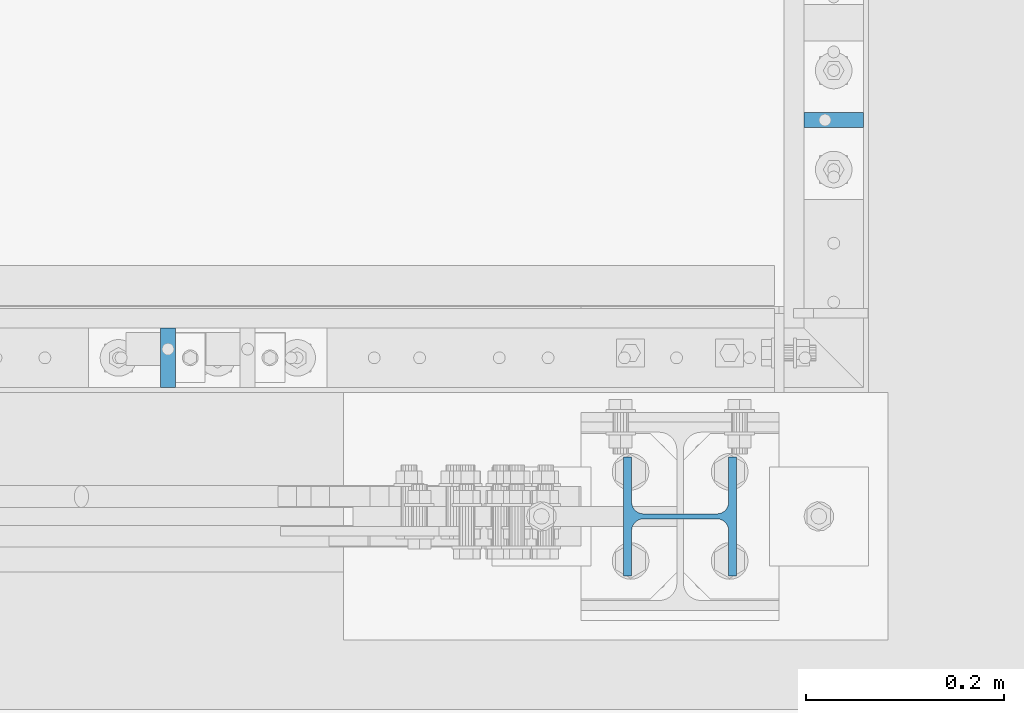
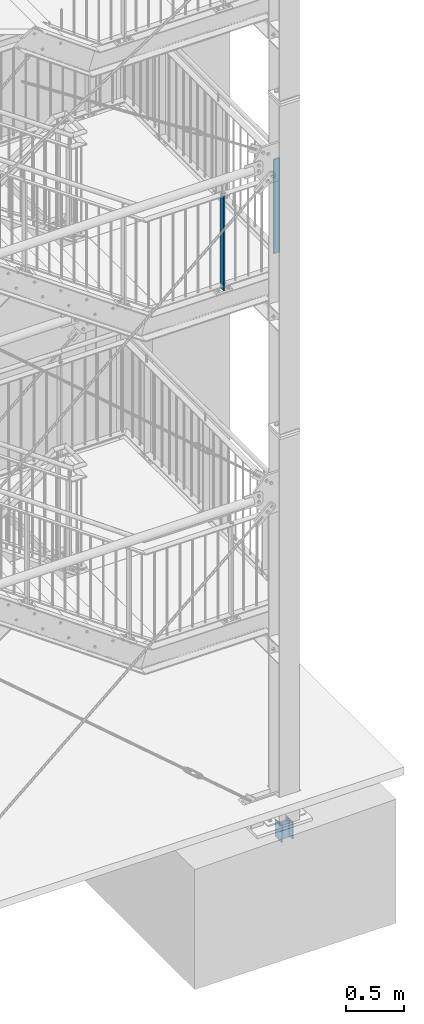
# One storey, part 89 of 831: 3 columns, 2 openings.
"""IFC2X3 building model written with IfcOpenShell, lengths in millimetres."""

from ifc_helpers import new_model, entity, si_unit, converted_unit, frame, origin, origin_with_axes, origin_2d, origin_2d_with_axis, place, context, project, spatial, rectangle, circle, i_section, extrude, clip, halfspace, material, element, save


model = new_model("IFC2X3")

# Units and contexts
model_context = context("Model", 3, precision=1e-09, world=origin_with_axes())
ifc_project = project(units=[si_unit("LENGTHUNIT", "METRE", prefix="MILLI"), si_unit("AREAUNIT", "SQUARE_METRE"), si_unit("VOLUMEUNIT", "CUBIC_METRE"), converted_unit("PLANEANGLEUNIT", "DEGREE", entity("IfcPlaneAngleMeasure", 0.01745329), si_unit("PLANEANGLEUNIT", "RADIAN"), dimensions=[0, 0, 0, 0, 0, 0, 0])], contexts=[model_context])

# Site, building, storey
site_placement = place(None, origin_with_axes())
site = spatial("IfcSite", under=ifc_project, at=site_placement, Name="Site", CompositionType="ELEMENT")
building_placement = place(site_placement, origin_with_axes())
building = spatial("IfcBuilding", under=site, at=building_placement, Name="Struktur 1", CompositionType="ELEMENT")
storey_placement = place(building_placement, origin_with_axes())
storey = spatial("IfcBuildingStorey", under=building, at=storey_placement, Name="Default Storey", CompositionType="ELEMENT", Elevation=0.0)

# Columns
ifc_material = material(Name="S235JR")
column_1_placement = place(None, frame((9021.713402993, 4766.735971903, 6714.618028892), z_axis=(0.0, 0.0, 1.0), x_axis=(0.0, -1.0, 0.0)))
element("IfcColumn", 1, at=column_1_placement, inside=storey, material=ifc_material, Name="Railing_Post_Landing#7", ObjectType="Railing_Post_Landing#7", context=model_context, shape_type="Clipping", body=[
    clip(clip(extrude(rectangle(XDim=15.0, YDim=60.0, at=origin_2d()), origin(), (0.0, 0.0, -1.0), 1070.646584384), halfspace(frame((4766.735971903, -9021.713402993, -1019.722292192), z_axis=(0.0, 0.0, 1.0), x_axis=(0.0, 1.0, 0.0)), True)), halfspace(frame((4766.735971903, -9021.713402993, -30.924292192), z_axis=(0.0, 0.0, -1.0), x_axis=(0.0, -1.0, 0.0)), True)),
])
column_2_placement = place(None, frame((8349.792260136, 4526.736971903, 6714.618028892), z_axis=(0.0, 0.0, 1.0), x_axis=(-1.0, 0.0, 0.0)))
element("IfcColumn", 2, at=column_2_placement, inside=storey, material=ifc_material, Name="Railing_Post_Landing#8", ObjectType="Railing_Post_Landing#8", context=model_context, shape_type="Clipping", body=[
    clip(clip(extrude(rectangle(XDim=15.0, YDim=60.0, at=origin_2d()), origin(), (0.0, 0.0, -1.0), 1070.646584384), halfspace(frame((8349.792260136, 4526.736971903, -1019.722292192), z_axis=(0.0, 0.0, 1.0), x_axis=(-1.0, 0.0, 0.0)), True)), halfspace(frame((8349.792260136, 4526.736971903, -30.924292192), z_axis=(0.0, 0.0, -1.0), x_axis=(1.0, 0.0, 0.0)), True)),
])

# Column, openings
column_3_placement = place(None, frame((8866.713402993, 4366.736971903, 30.0), z_axis=(0.0, 0.0, 1.0), x_axis=(0.0, 1.0, 0.0)))
column_3 = element("IfcColumn", 3, at=column_3_placement, inside=storey, material=ifc_material, Name="-", ObjectType="-", context=model_context, shape_type="SweptSolid", body=[
    extrude(i_section(OverallWidth=120.0, OverallDepth=114.0, WebThickness=5.0, FlangeThickness=8.0, FilletRadius=12.0, at=origin_2d()), origin(), (0.0, 0.0, -1.0), 180.0),
])
opening_1_placement = place(column_3_placement, frame((-3.0, 30.0, -12.0), z_axis=(1.0, 0.0, 0.0), x_axis=(0.0, 0.0, -1.0)))
element("IfcOpeningElement", 4, at=opening_1_placement, cuts=column_3, ObjectType="Opening", context=model_context, shape_type="SweptSolid", body=[
    extrude(circle(Radius=6.001, at=origin_2d_with_axis()), origin(), (0.0, 0.0, 1.0), 6.0),
])
opening_2_placement = place(column_3_placement, frame((-3.0, -30.0, -12.0), z_axis=(1.0, 0.0, 0.0), x_axis=(0.0, 0.0, -1.0)))
element("IfcOpeningElement", 5, at=opening_2_placement, cuts=column_3, ObjectType="Opening", context=model_context, shape_type="SweptSolid", body=[
    extrude(circle(Radius=6.001, at=origin_2d_with_axis()), origin(), (0.0, 0.0, 1.0), 6.0),
])

save(model, "model.ifc")
